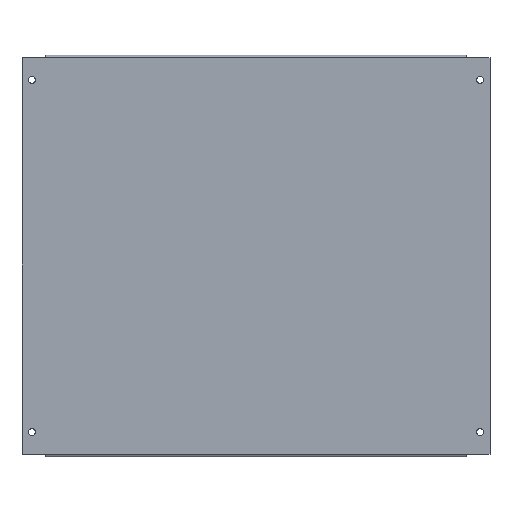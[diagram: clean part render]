
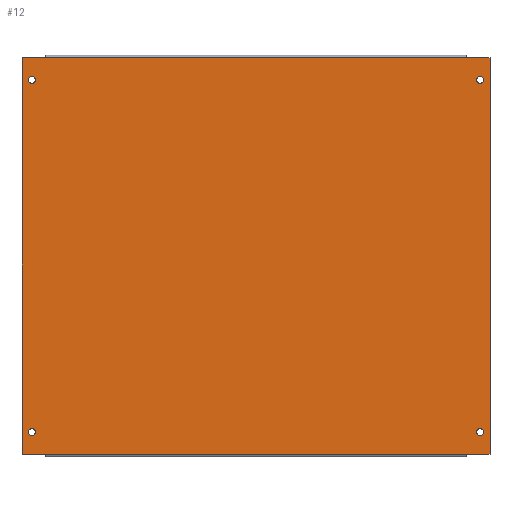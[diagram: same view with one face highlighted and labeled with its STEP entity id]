
A CAD part, top view. The second image highlights one B-rep face of the part: STEP entity #12.
In plain terms, the highlighted planar face has unit normal (0, 0, 1).
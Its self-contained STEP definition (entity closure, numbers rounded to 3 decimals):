
#12 = ADVANCED_FACE ( 'NONE', ( #242, #243, #219, #198, #208 ), #713, .T. ) ;
#18 = CIRCLE ( 'NONE', #320, 3.5 ) ;
#22 = CIRCLE ( 'NONE', #172, 3.5 ) ;
#26 = CIRCLE ( 'NONE', #318, 3.5 ) ;
#30 = CIRCLE ( 'NONE', #259, 3.5 ) ;
#40 = EDGE_CURVE ( 'NONE', #646, #647, #751, .T. ) ;
#42 = EDGE_CURVE ( 'NONE', #636, #637, #106, .T. ) ;
#44 = EDGE_CURVE ( 'NONE', #645, #646, #763, .T. ) ;
#49 = EDGE_CURVE ( 'NONE', #648, #649, #778, .T. ) ;
#52 = EDGE_CURVE ( 'NONE', #634, #626, #109, .T. ) ;
#54 = EDGE_CURVE ( 'NONE', #643, #644, #793, .T. ) ;
#63 = EDGE_CURVE ( 'NONE', #629, #627, #92, .T. ) ;
#64 = EDGE_CURVE ( 'NONE', #626, #634, #22, .T. ) ;
#82 = EDGE_CURVE ( 'NONE', #640, #641, #30, .T. ) ;
#86 = EDGE_CURVE ( 'NONE', #637, #636, #98, .T. ) ;
#87 = EDGE_CURVE ( 'NONE', #647, #648, #883, .T. ) ;
#92 = CIRCLE ( 'NONE', #176, 3.5 ) ;
#98 = CIRCLE ( 'NONE', #264, 3.5 ) ;
#106 = CIRCLE ( 'NONE', #222, 3.5 ) ;
#109 = CIRCLE ( 'NONE', #218, 3.5 ) ;
#133 = EDGE_CURVE ( 'NONE', #627, #629, #26, .T. ) ;
#141 = EDGE_CURVE ( 'NONE', #641, #640, #18, .T. ) ;
#142 = EDGE_CURVE ( 'NONE', #649, #642, #942, .T. ) ;
#148 = EDGE_CURVE ( 'NONE', #644, #645, #960, .T. ) ;
#154 = EDGE_CURVE ( 'NONE', #642, #643, #966, .T. ) ;
#172 = AXIS2_PLACEMENT_3D ( 'NONE', #813, #814, #815 ) ;
#176 = AXIS2_PLACEMENT_3D ( 'NONE', #810, #811, #812 ) ;
#182 = VECTOR ( 'NONE', #795, 1000. ) ;
#198 = FACE_OUTER_BOUND ( 'NONE', #591, .T. ) ;
#208 = FACE_BOUND ( 'NONE', #592, .T. ) ;
#218 = AXIS2_PLACEMENT_3D ( 'NONE', #786, #787, #788 ) ;
#219 = FACE_BOUND ( 'NONE', #590, .T. ) ;
#222 = AXIS2_PLACEMENT_3D ( 'NONE', #741, #757, #758 ) ;
#225 = VECTOR ( 'NONE', #765, 1000. ) ;
#227 = VECTOR ( 'NONE', #753, 1000. ) ;
#229 = VECTOR ( 'NONE', #780, 1000. ) ;
#238 = AXIS2_PLACEMENT_3D ( 'NONE', #714, #715, #716 ) ;
#242 = FACE_BOUND ( 'NONE', #588, .T. ) ;
#243 = FACE_BOUND ( 'NONE', #589, .T. ) ;
#259 = AXIS2_PLACEMENT_3D ( 'NONE', #864, #868, #869 ) ;
#264 = AXIS2_PLACEMENT_3D ( 'NONE', #876, #880, #881 ) ;
#266 = VECTOR ( 'NONE', #885, 1000. ) ;
#311 = DIRECTION ( 'NONE',  ( 0., 0., 1. ) ) ;
#313 = DIRECTION ( 'NONE',  ( 1., 0., 0. ) ) ;
#318 = AXIS2_PLACEMENT_3D ( 'NONE', #401, #402, #403 ) ;
#320 = AXIS2_PLACEMENT_3D ( 'NONE', #417, #311, #313 ) ;
#322 = VECTOR ( 'NONE', #944, 1000. ) ;
#329 = VECTOR ( 'NONE', #962, 1000. ) ;
#333 = VECTOR ( 'NONE', #968, 1000. ) ;
#401 = CARTESIAN_POINT ( 'NONE',  ( -222.75, -175., 1.2 ) ) ;
#402 = DIRECTION ( 'NONE',  ( 0., 0., -1. ) ) ;
#403 = DIRECTION ( 'NONE',  ( 1., 0., 0. ) ) ;
#417 = CARTESIAN_POINT ( 'NONE',  ( -222.75, 175., 1.2 ) ) ;
#551 = ORIENTED_EDGE ( 'NONE', *, *, #63, .T. ) ;
#552 = ORIENTED_EDGE ( 'NONE', *, *, #133, .T. ) ;
#554 = ORIENTED_EDGE ( 'NONE', *, *, #142, .T. ) ;
#555 = ORIENTED_EDGE ( 'NONE', *, *, #49, .T. ) ;
#556 = ORIENTED_EDGE ( 'NONE', *, *, #87, .T. ) ;
#557 = ORIENTED_EDGE ( 'NONE', *, *, #40, .T. ) ;
#558 = ORIENTED_EDGE ( 'NONE', *, *, #44, .T. ) ;
#559 = ORIENTED_EDGE ( 'NONE', *, *, #54, .T. ) ;
#560 = ORIENTED_EDGE ( 'NONE', *, *, #148, .T. ) ;
#561 = ORIENTED_EDGE ( 'NONE', *, *, #82, .F. ) ;
#562 = ORIENTED_EDGE ( 'NONE', *, *, #141, .F. ) ;
#563 = ORIENTED_EDGE ( 'NONE', *, *, #42, .T. ) ;
#564 = ORIENTED_EDGE ( 'NONE', *, *, #64, .F. ) ;
#565 = ORIENTED_EDGE ( 'NONE', *, *, #154, .T. ) ;
#566 = ORIENTED_EDGE ( 'NONE', *, *, #86, .T. ) ;
#567 = ORIENTED_EDGE ( 'NONE', *, *, #52, .F. ) ;
#588 = EDGE_LOOP ( 'NONE', ( #567, #564 ) ) ;
#589 = EDGE_LOOP ( 'NONE', ( #566, #563 ) ) ;
#590 = EDGE_LOOP ( 'NONE', ( #562, #561 ) ) ;
#591 = EDGE_LOOP ( 'NONE', ( #565, #559, #560, #558, #557, #556, #555, #554 ) ) ;
#592 = EDGE_LOOP ( 'NONE', ( #551, #552 ) ) ;
#626 = VERTEX_POINT ( 'NONE', #941 ) ;
#627 = VERTEX_POINT ( 'NONE', #972 ) ;
#629 = VERTEX_POINT ( 'NONE', #974 ) ;
#634 = VERTEX_POINT ( 'NONE', #979 ) ;
#636 = VERTEX_POINT ( 'NONE', #981 ) ;
#637 = VERTEX_POINT ( 'NONE', #982 ) ;
#640 = VERTEX_POINT ( 'NONE', #985 ) ;
#641 = VERTEX_POINT ( 'NONE', #986 ) ;
#642 = VERTEX_POINT ( 'NONE', #987 ) ;
#643 = VERTEX_POINT ( 'NONE', #988 ) ;
#644 = VERTEX_POINT ( 'NONE', #989 ) ;
#645 = VERTEX_POINT ( 'NONE', #990 ) ;
#646 = VERTEX_POINT ( 'NONE', #991 ) ;
#647 = VERTEX_POINT ( 'NONE', #992 ) ;
#648 = VERTEX_POINT ( 'NONE', #993 ) ;
#649 = VERTEX_POINT ( 'NONE', #994 ) ;
#713 = PLANE ( 'NONE',  #238 ) ;
#714 = CARTESIAN_POINT ( 'NONE',  ( -232.5, -199.5, 1.2 ) ) ;
#715 = DIRECTION ( 'NONE',  ( 0., 0., 1. ) ) ;
#716 = DIRECTION ( 'NONE',  ( 1., 0., 0. ) ) ;
#741 = CARTESIAN_POINT ( 'NONE',  ( 222.75, 175., 1.2 ) ) ;
#751 = LINE ( 'NONE', #752, #227 ) ;
#752 = CARTESIAN_POINT ( 'NONE',  ( 232.5, 199.5, 1.2 ) ) ;
#753 = DIRECTION ( 'NONE',  ( 0., 1., 0. ) ) ;
#757 = DIRECTION ( 'NONE',  ( 0., 0., -1. ) ) ;
#758 = DIRECTION ( 'NONE',  ( 1., 0., 0. ) ) ;
#763 = LINE ( 'NONE', #764, #225 ) ;
#764 = CARTESIAN_POINT ( 'NONE',  ( -232.5, -197.1, 1.2 ) ) ;
#765 = DIRECTION ( 'NONE',  ( 1., 0., 0. ) ) ;
#778 = LINE ( 'NONE', #779, #229 ) ;
#779 = CARTESIAN_POINT ( 'NONE',  ( 209.5, 197.1, 1.2 ) ) ;
#780 = DIRECTION ( 'NONE',  ( -1., 0., 0. ) ) ;
#786 = CARTESIAN_POINT ( 'NONE',  ( 222.75, -175., 1.2 ) ) ;
#787 = DIRECTION ( 'NONE',  ( 0., 0., 1. ) ) ;
#788 = DIRECTION ( 'NONE',  ( 1., 0., 0. ) ) ;
#793 = LINE ( 'NONE', #794, #182 ) ;
#794 = CARTESIAN_POINT ( 'NONE',  ( -232.5, -197.1, 1.2 ) ) ;
#795 = DIRECTION ( 'NONE',  ( 1., 0., 0. ) ) ;
#810 = CARTESIAN_POINT ( 'NONE',  ( -222.75, -175., 1.2 ) ) ;
#811 = DIRECTION ( 'NONE',  ( 0., 0., -1. ) ) ;
#812 = DIRECTION ( 'NONE',  ( 1., 0., 0. ) ) ;
#813 = CARTESIAN_POINT ( 'NONE',  ( 222.75, -175., 1.2 ) ) ;
#814 = DIRECTION ( 'NONE',  ( 0., 0., 1. ) ) ;
#815 = DIRECTION ( 'NONE',  ( 1., 0., 0. ) ) ;
#864 = CARTESIAN_POINT ( 'NONE',  ( -222.75, 175., 1.2 ) ) ;
#868 = DIRECTION ( 'NONE',  ( 0., 0., 1. ) ) ;
#869 = DIRECTION ( 'NONE',  ( 1., 0., 0. ) ) ;
#876 = CARTESIAN_POINT ( 'NONE',  ( 222.75, 175., 1.2 ) ) ;
#880 = DIRECTION ( 'NONE',  ( 0., 0., -1. ) ) ;
#881 = DIRECTION ( 'NONE',  ( 1., 0., 0. ) ) ;
#883 = LINE ( 'NONE', #884, #266 ) ;
#884 = CARTESIAN_POINT ( 'NONE',  ( -232.5, 197.1, 1.2 ) ) ;
#885 = DIRECTION ( 'NONE',  ( -1., 0., 0. ) ) ;
#941 = CARTESIAN_POINT ( 'NONE',  ( 219.25, -175., 1.2 ) ) ;
#942 = LINE ( 'NONE', #943, #322 ) ;
#943 = CARTESIAN_POINT ( 'NONE',  ( -232.5, 197.1, 1.2 ) ) ;
#944 = DIRECTION ( 'NONE',  ( -1., 0., 0. ) ) ;
#960 = LINE ( 'NONE', #961, #329 ) ;
#961 = CARTESIAN_POINT ( 'NONE',  ( -209.5, -197.1, 1.2 ) ) ;
#962 = DIRECTION ( 'NONE',  ( 1., 0., 0. ) ) ;
#966 = LINE ( 'NONE', #967, #333 ) ;
#967 = CARTESIAN_POINT ( 'NONE',  ( -232.5, 199.5, 1.2 ) ) ;
#968 = DIRECTION ( 'NONE',  ( 0., -1., 0. ) ) ;
#972 = CARTESIAN_POINT ( 'NONE',  ( -226.25, -175., 1.2 ) ) ;
#974 = CARTESIAN_POINT ( 'NONE',  ( -219.25, -175., 1.2 ) ) ;
#979 = CARTESIAN_POINT ( 'NONE',  ( 226.25, -175., 1.2 ) ) ;
#981 = CARTESIAN_POINT ( 'NONE',  ( 219.25, 175., 1.2 ) ) ;
#982 = CARTESIAN_POINT ( 'NONE',  ( 226.25, 175., 1.2 ) ) ;
#985 = CARTESIAN_POINT ( 'NONE',  ( -226.25, 175., 1.2 ) ) ;
#986 = CARTESIAN_POINT ( 'NONE',  ( -219.25, 175., 1.2 ) ) ;
#987 = CARTESIAN_POINT ( 'NONE',  ( -232.5, 197.1, 1.2 ) ) ;
#988 = CARTESIAN_POINT ( 'NONE',  ( -232.5, -197.1, 1.2 ) ) ;
#989 = CARTESIAN_POINT ( 'NONE',  ( -209.5, -197.1, 1.2 ) ) ;
#990 = CARTESIAN_POINT ( 'NONE',  ( 209.5, -197.1, 1.2 ) ) ;
#991 = CARTESIAN_POINT ( 'NONE',  ( 232.5, -197.1, 1.2 ) ) ;
#992 = CARTESIAN_POINT ( 'NONE',  ( 232.5, 197.1, 1.2 ) ) ;
#993 = CARTESIAN_POINT ( 'NONE',  ( 209.5, 197.1, 1.2 ) ) ;
#994 = CARTESIAN_POINT ( 'NONE',  ( -209.5, 197.1, 1.2 ) ) ;
